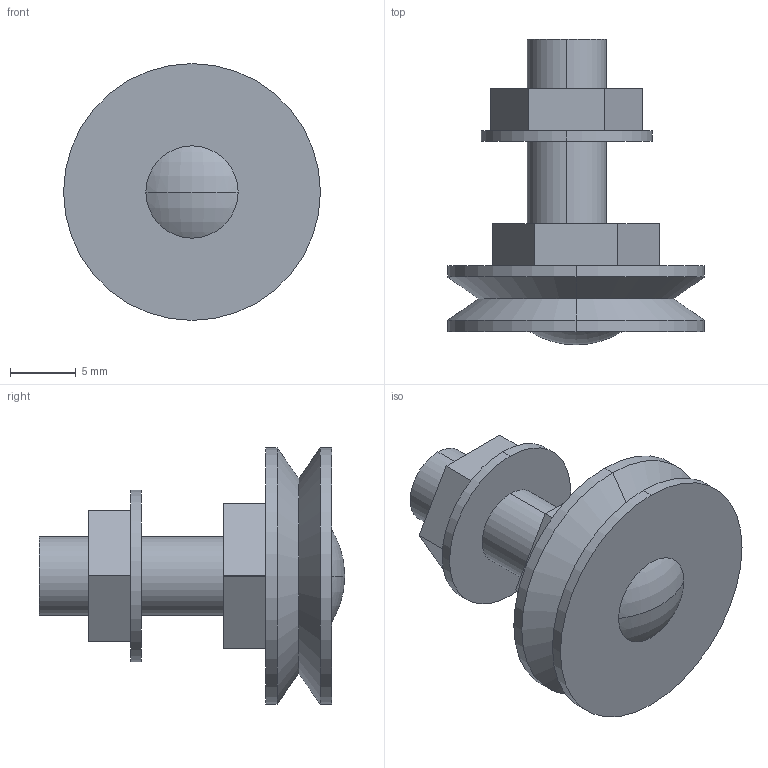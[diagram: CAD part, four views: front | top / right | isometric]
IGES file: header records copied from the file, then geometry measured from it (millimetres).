
Start section: 3D InterOp IGES (v. 2019 1.0.2), Spatial Corp. Copyright (c) 1999-2017.
Global section: file name: GLJ 195 ENS.igs; native system: Spatial Corp.; preprocessor: 3D InterOp GENERIC/IGES 3.0; author: Noname; organization: Noname; date: 20220628.170609; units: millimetre
Bounding box: 19.5 x 23.2 x 19.5 mm (x, y, z)
Surface area: 1703.1 mm2 (no closed solid volume)
Topology: 0 solids, 0 shells, 42 faces, 188 edges, 188 vertices
Faces by surface type: extrusion 26, revolution 16
